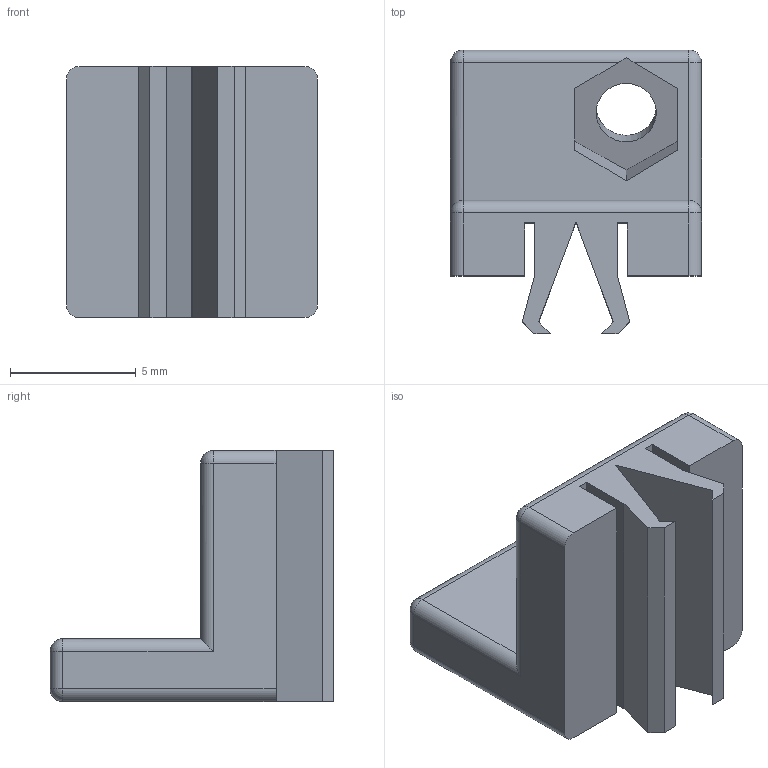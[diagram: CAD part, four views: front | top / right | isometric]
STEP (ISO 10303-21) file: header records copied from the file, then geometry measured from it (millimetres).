
FILE_DESCRIPTION(/* description */ (''),/* implementation_level */ '2;1');
FILE_NAME(/* name */ 'C:/Users/priba/Downloads/Brick1x1l7_15Deg.step',/* time_stamp */ '2022-04-03T10:30:05+02:00',/* author */ (''),/* organization */ (''),/* preprocessor_version */ 'ST-DEVELOPER v18.1',/* originating_system */ 'Autodesk Translation Framework v10.13.0.1454',/* authorisation */ '');
FILE_SCHEMA (('AUTOMOTIVE_DESIGN { 1 0 10303 214 3 1 1 }'));
Length unit declared in the file: millimetre
Products named in the file (1): Brick1x1l7_15Deg
Bounding box: 10 x 11.31 x 10 mm (x, y, z)
Volume: 417.9 mm3; surface area: 682.5 mm2
Topology: 1 solids, 1 shells, 64 faces, 163 edges, 102 vertices
Faces by surface type: plane 43, cylinder 15, sphere 6
Full cylindrical faces by diameter (mm): 2.4 x1
Entity records: 1923 total; most frequent: CARTESIAN_POINT 330, ORIENTED_EDGE 326, DIRECTION 323, EDGE_CURVE 163, LINE 133, VECTOR 133, VERTEX_POINT 102, AXIS2_PLACEMENT_3D 95
